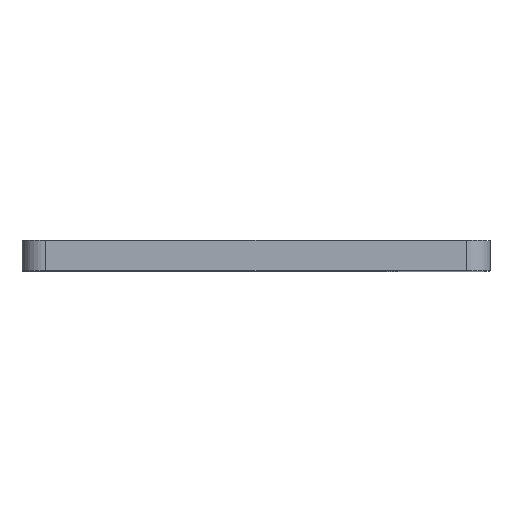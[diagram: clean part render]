
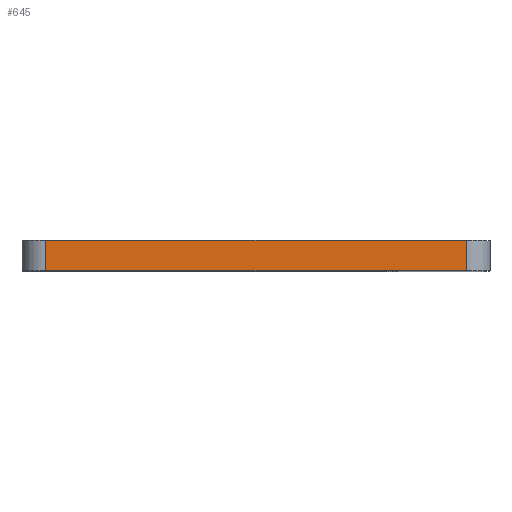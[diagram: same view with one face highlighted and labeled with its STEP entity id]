
A CAD part, top view. The second image highlights one B-rep face of the part: STEP entity #645.
In plain terms, the highlighted planar face has unit normal (0, 0, 1).
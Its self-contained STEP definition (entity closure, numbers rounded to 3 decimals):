
#118 = VERTEX_POINT ( 'NONE', #1693 ) ;
#240 = EDGE_CURVE ( 'NONE', #1605, #118, #1549, .T. ) ;
#243 = LINE ( 'NONE', #947, #719 ) ;
#248 = ORIENTED_EDGE ( 'NONE', *, *, #522, .F. ) ;
#289 = ORIENTED_EDGE ( 'NONE', *, *, #392, .F. ) ;
#322 = VERTEX_POINT ( 'NONE', #1282 ) ;
#392 = EDGE_CURVE ( 'NONE', #1605, #1408, #1707, .T. ) ;
#432 = CARTESIAN_POINT ( 'NONE',  ( -31.75, 4.1, 31.75 ) ) ;
#441 = DIRECTION ( 'NONE',  ( -1., 0., 0. ) ) ;
#487 = EDGE_LOOP ( 'NONE', ( #289, #1489, #248, #1652 ) ) ;
#490 = CARTESIAN_POINT ( 'NONE',  ( -31.75, 4.1, 31.75 ) ) ;
#522 = EDGE_CURVE ( 'NONE', #322, #118, #243, .T. ) ;
#645 = ADVANCED_FACE ( 'NONE', ( #1113 ), #1095, .F. ) ;
#649 = LINE ( 'NONE', #490, #1722 ) ;
#719 = VECTOR ( 'NONE', #830, 1000. ) ;
#746 = DIRECTION ( 'NONE',  ( 1., 0., 0. ) ) ;
#830 = DIRECTION ( 'NONE',  ( 0., -1., 0. ) ) ;
#871 = AXIS2_PLACEMENT_3D ( 'NONE', #432, #1254, #441 ) ;
#889 = EDGE_CURVE ( 'NONE', #1408, #322, #649, .T. ) ;
#895 = CARTESIAN_POINT ( 'NONE',  ( -28.55, 4.1, 31.75 ) ) ;
#922 = DIRECTION ( 'NONE',  ( 0., 1., 0. ) ) ;
#947 = CARTESIAN_POINT ( 'NONE',  ( 28.55, 4.1, 31.75 ) ) ;
#1041 = DIRECTION ( 'NONE',  ( 1., 0., 0. ) ) ;
#1095 = PLANE ( 'NONE',  #871 ) ;
#1113 = FACE_OUTER_BOUND ( 'NONE', #487, .T. ) ;
#1210 = VECTOR ( 'NONE', #922, 1000. ) ;
#1254 = DIRECTION ( 'NONE',  ( 0., 0., -1. ) ) ;
#1282 = CARTESIAN_POINT ( 'NONE',  ( 28.55, 4.1, 31.75 ) ) ;
#1303 = CARTESIAN_POINT ( 'NONE',  ( 31.75, 0., 31.75 ) ) ;
#1321 = CARTESIAN_POINT ( 'NONE',  ( -28.55, 4.1, 31.75 ) ) ;
#1408 = VERTEX_POINT ( 'NONE', #895 ) ;
#1489 = ORIENTED_EDGE ( 'NONE', *, *, #240, .T. ) ;
#1549 = LINE ( 'NONE', #1303, #1661 ) ;
#1605 = VERTEX_POINT ( 'NONE', #1627 ) ;
#1627 = CARTESIAN_POINT ( 'NONE',  ( -28.55, 0., 31.75 ) ) ;
#1652 = ORIENTED_EDGE ( 'NONE', *, *, #889, .F. ) ;
#1661 = VECTOR ( 'NONE', #746, 1000. ) ;
#1693 = CARTESIAN_POINT ( 'NONE',  ( 28.55, 0., 31.75 ) ) ;
#1707 = LINE ( 'NONE', #1321, #1210 ) ;
#1722 = VECTOR ( 'NONE', #1041, 1000. ) ;
